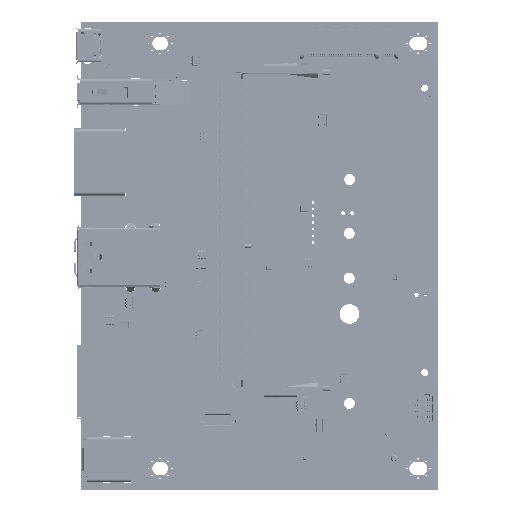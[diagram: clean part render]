
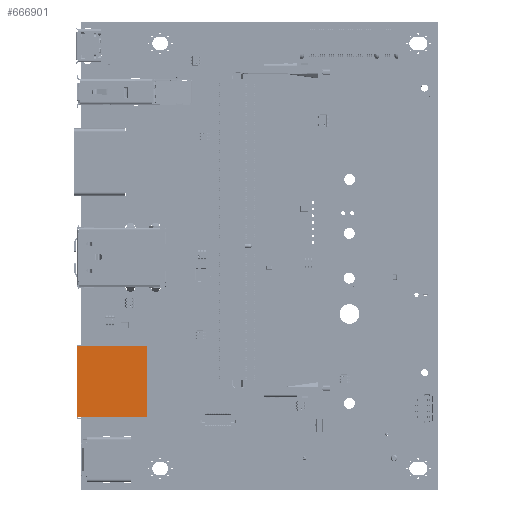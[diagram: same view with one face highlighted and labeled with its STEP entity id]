
A CAD part, top view. The second image highlights one B-rep face of the part: STEP entity #666901.
In plain terms, the highlighted planar face has unit normal (0, 0, 1) as drawn and (0, 1, 0) by its records, which use the part's own axes.
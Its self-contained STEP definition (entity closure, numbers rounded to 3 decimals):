
#666641 = VERTEX_POINT('',#666642);
#666642 = CARTESIAN_POINT('',(7.975,0.,0.));
#666723 = VERTEX_POINT('',#666724);
#666724 = CARTESIAN_POINT('',(-7.975,0.,0.));
#666730 = EDGE_CURVE('',#666723,#666641,#666731,.T.);
#666731 = LINE('',#666732,#666733);
#666732 = CARTESIAN_POINT('',(-7.975,0.,0.));
#666733 = VECTOR('',#666734,1.);
#666734 = DIRECTION('',(1.,0.,0.));
#666843 = EDGE_CURVE('',#666844,#666641,#666846,.T.);
#666844 = VERTEX_POINT('',#666845);
#666845 = CARTESIAN_POINT('',(7.975,0.,-15.75));
#666846 = LINE('',#666847,#666848);
#666847 = CARTESIAN_POINT('',(7.975,0.,-15.75));
#666848 = VECTOR('',#666849,1.);
#666849 = DIRECTION('',(0.,0.,1.));
#666901 = ADVANCED_FACE('',(#666902),#666920,.T.);
#666902 = FACE_BOUND('',#666903,.F.);
#666903 = EDGE_LOOP('',(#666904,#666905,#666913,#666919));
#666904 = ORIENTED_EDGE('',*,*,#666730,.F.);
#666905 = ORIENTED_EDGE('',*,*,#666906,.F.);
#666906 = EDGE_CURVE('',#666907,#666723,#666909,.T.);
#666907 = VERTEX_POINT('',#666908);
#666908 = CARTESIAN_POINT('',(-7.975,0.,-15.75));
#666909 = LINE('',#666910,#666911);
#666910 = CARTESIAN_POINT('',(-7.975,0.,-15.75));
#666911 = VECTOR('',#666912,1.);
#666912 = DIRECTION('',(0.,0.,1.));
#666913 = ORIENTED_EDGE('',*,*,#666914,.T.);
#666914 = EDGE_CURVE('',#666907,#666844,#666915,.T.);
#666915 = LINE('',#666916,#666917);
#666916 = CARTESIAN_POINT('',(-7.975,0.,-15.75));
#666917 = VECTOR('',#666918,1.);
#666918 = DIRECTION('',(1.,0.,0.));
#666919 = ORIENTED_EDGE('',*,*,#666843,.T.);
#666920 = PLANE('',#666921);
#666921 = AXIS2_PLACEMENT_3D('',#666922,#666923,#666924);
#666922 = CARTESIAN_POINT('',(8.275,0.,0.));
#666923 = DIRECTION('',(0.,1.,0.));
#666924 = DIRECTION('',(-1.,0.,0.));
